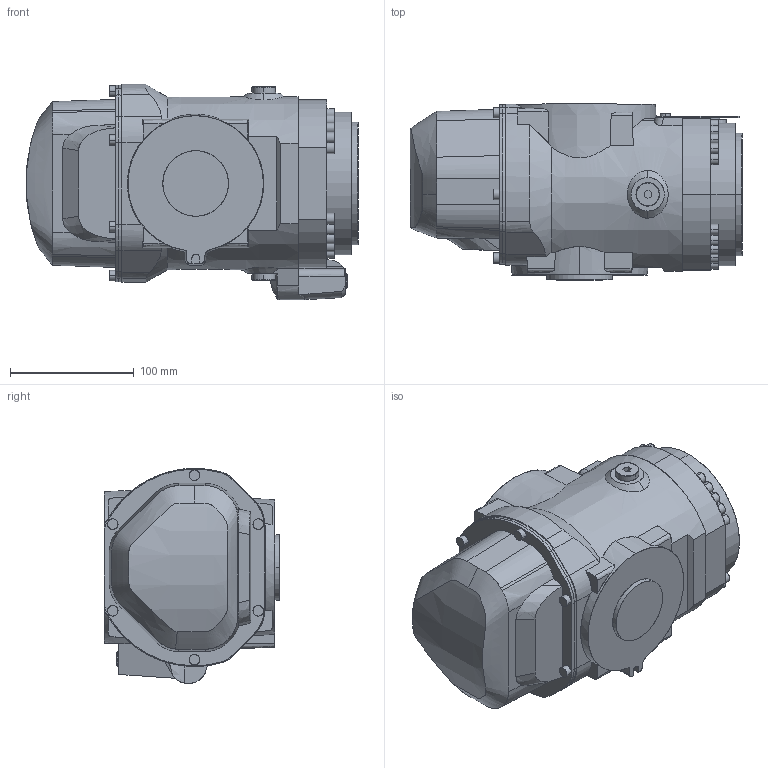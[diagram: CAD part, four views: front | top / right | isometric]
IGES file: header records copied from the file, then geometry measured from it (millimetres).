
Start section: SolidWorks IGES file using analytic representation for surfaces
Global section: file name: C:\Users\SEALDUN\OneDrive - ABB\Documents\R&D Robotics\Work Items\WI 632927\IGES\IRB5710-LID-SW_70kg-270_OC_02_IGES_J\IRB5710-LID_70kg-270_OmniCore_rev00_LINK05_CAD.igs; native system: SolidWorks 2024; preprocessor: SolidWorks 2024; author: SEALDUN; date: 250707.155308; units: millimetre
Bounding box: 268.1 x 142 x 173.78 mm (x, y, z)
Surface area: 173123.3 mm2 (no closed solid volume)
Topology: 0 solids, 0 shells, 465 faces, 7629 edges, 7625 vertices
Faces by surface type: bspline 252, revolution 213
